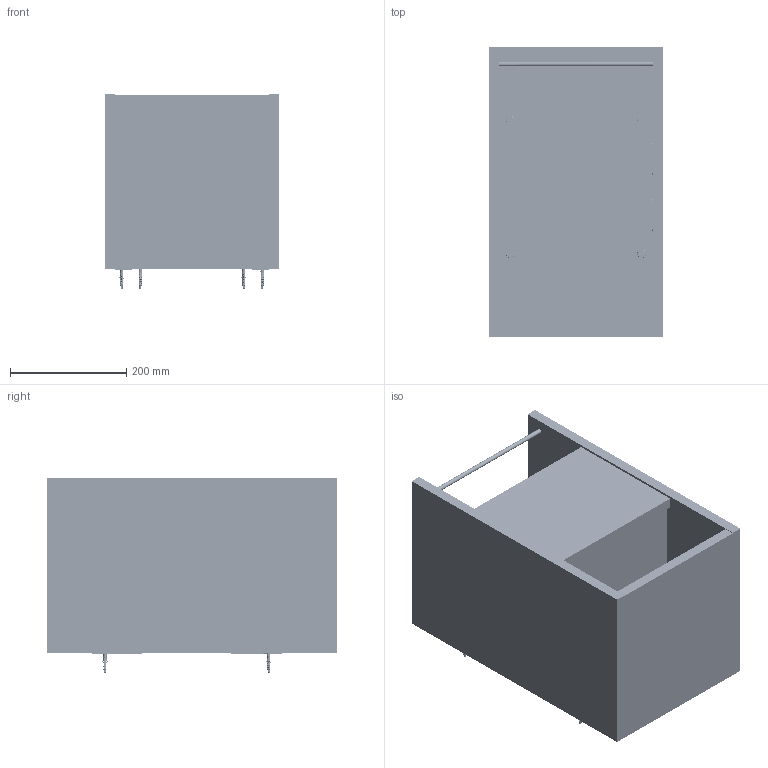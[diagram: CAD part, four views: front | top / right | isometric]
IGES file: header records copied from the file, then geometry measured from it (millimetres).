
Global section: file name: 3D Dosyası,; native system: Autodesk Inventor 2024; preprocessor: unknown; author: pc11; date: 20250708.104427; units: millimetre
Bounding box: 300 x 500 x 336.1 mm (x, y, z)
Volume: 12600257.3 mm3; surface area: 1761877.5 mm2
Topology: 53 solids, 61 shells, 5243 faces, 13625 edges, 8484 vertices
Faces by surface type: bspline 5243
